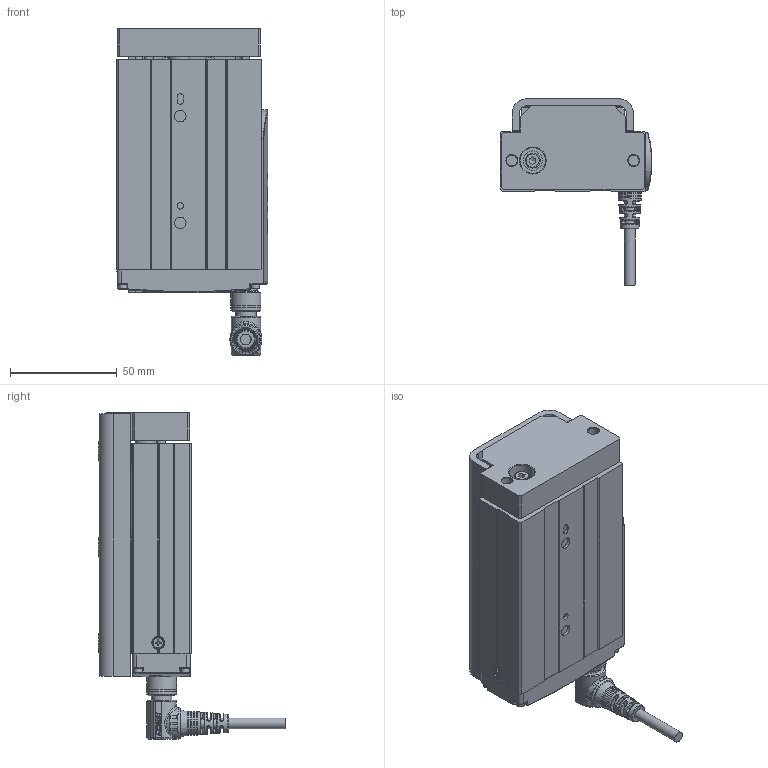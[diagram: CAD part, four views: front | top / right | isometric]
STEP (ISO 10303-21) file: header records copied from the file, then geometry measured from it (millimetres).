
FILE_DESCRIPTION(/* description */ ('STEP AP203'),/* implementation_level */ '2;1');
FILE_NAME(/* name */ 'D:\暫\2025.02.06 CSG 3D\CSG25\CSG25-S50-WM.stp',/* time_stamp */ '2025-02-08T09:51:33+08:00',/* author */ ('T10033'),/* organization */ (''),/* preprocessor_version */ 'ST-DEVELOPER v18.1',/* originating_system */ 'Autodesk Inventor 2020',/* authorisation */ '');
FILE_SCHEMA (('CONFIG_CONTROL_DESIGN'));
Products named in the file (20): CSG25-50行程-180接頭-完整組合; 22024-000496; plain washer 10673 type snl_iso_ISO 10673-4.55-S; 22035-000061(G4ªo¯]); countersunk flat head cross recess screw_iso_ISO 7046-1 - M2.5 x 4 - 
Z - 4N; plain washer 10673 type snl_iso_ISO 10673-2.75-S; socket head cap screw_iso_ISO 4762 M2.5 x 5 - 5N; ©T©wªO-·¥­­¾×ª
O4-M2¤ú; socket head cap screw_iso_ISO 4762 M2.5 x 6 - 6N; socket head cap screw_iso_ISO 4762 M2.5 x 8 - 8N; ¶ì½¦ºÝ»-L¼Ë¦¡
(TOYO); socket head cap screw_iso_ISO 4762 M2 x 12 - 12N; M12 -14PIN  ªOºÝ-²Ä¤@ºØ
³W®æ; CSG25-50¥»Åé3ª©-ªo¤Õ
½Õ¾ã¨¤«×; 12003-000221-­×§ï; CSG25-Carriage-newtype; CNS 3932 - M 4 x 0.7 x 12; CNS 4558 - M5 x 0.8 x 12; Solid1-2; M12-14PIN 線端90度接頭-05中繼線
Assembly tree (31 placements, depth 2):
  CSG25-50行程-180接頭-完整組合
    22024-000496
    plain washer 10673 type snl_iso_ISO 10673-4.55-S
    22035-000061(G4ªo¯])
    socket head cap screw_iso_ISO 4762 M2.5 x 8 - 8N  x8
    countersunk flat head cross recess screw_iso_ISO 7046-1 - M2.5 x 4 - 
Z - 4N
    plain washer 10673 type snl_iso_ISO 10673-2.75-S
    socket head cap screw_iso_ISO 4762 M2.5 x 5 - 5N
    ©T©wªO-·¥­­¾×ª
O4-M2¤ú
    socket head cap screw_iso_ISO 4762 M2.5 x 6 - 6N  x2
    ¶ì½¦ºÝ»-L¼Ë¦¡
(TOYO)
    socket head cap screw_iso_ISO 4762 M2 x 12 - 12N  x4
    M12 -14PIN  ªOºÝ-²Ä¤@ºØ
³W®æ
    CSG25-50¥»Åé3ª©-ªo¤Õ
½Õ¾ã¨¤«×
    12003-000221-­×§ï
    CSG25-Carriage-newtype
    CNS 3932 - M 4 x 0.7 x 12
    CNS 4558 - M5 x 0.8 x 12  x2
    Solid1-2
    M12-14PIN 線端90度接頭-05中繼線
Bounding box: 71 x 87.54 x 153 mm (x, y, z)
Volume: 272176 mm3; surface area: 80777.9 mm2
Topology: 45 solids, 54 shells, 2996 faces, 8239 edges, 5480 vertices
Faces by surface type: plane 1435, bspline 647, cylinder 500, cone 282, torus 125, sphere 7
Full cylindrical faces by diameter (mm): 0.6 x14, 0.65 x14, 1 x14, 1.6 x4, 2 x4, 2.05 x3, 2.5 x13, 2.75 x1, 2.9 x2, 3 x3, 3.8 x4, 4 x1, 4.134 x8, 4.5 x11, 4.55 x1, 4.7 x1, 4.95 x1, 5 x6, 5.2 x1, 5.3 x2, 5.4 x4, 5.5 x4, 6 x4, 7 x1, 8 x1, 8.9 x1, 9 x13, 9.5 x2, 9.6 x1, 10 x6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
Entity records: 115825 total; most frequent: CARTESIAN_POINT 44655, ORIENTED_EDGE 15199, DIRECTION 13363, EDGE_CURVE 7618, VERTEX_POINT 5093, AXIS2_PLACEMENT_3D 4682, LINE 3999, VECTOR 3999
